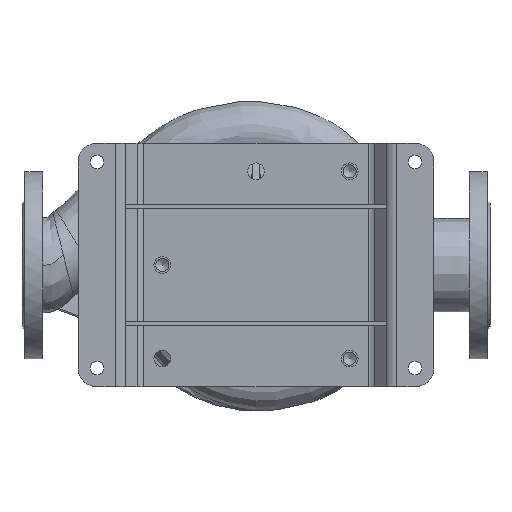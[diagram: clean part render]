
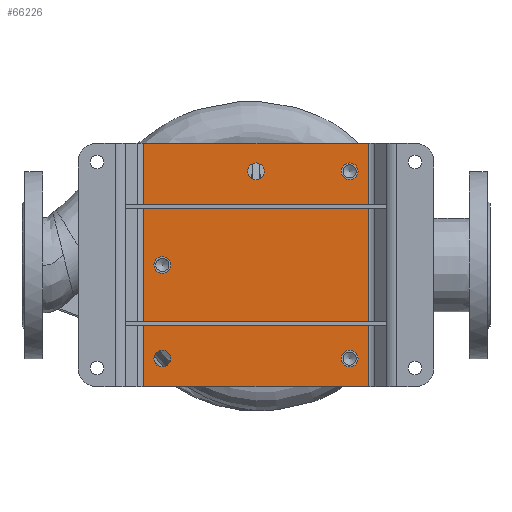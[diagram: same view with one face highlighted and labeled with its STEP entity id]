
A CAD part, top view. The second image highlights one B-rep face of the part: STEP entity #66226.
In plain terms, the highlighted planar face has unit normal (0, 0, 1) as drawn and (0, -1, 0) by its records, which use the part's own axes.
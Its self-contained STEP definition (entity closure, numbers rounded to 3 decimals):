
#1422 = DIRECTION ( 'NONE',  ( 0., 0., -1. ) ) ;
#1971 = DIRECTION ( 'NONE',  ( 0., -1., 0. ) ) ;
#2475 = DIRECTION ( 'NONE',  ( 0., -1., 0. ) ) ;
#2596 = LINE ( 'NONE', #3300, #49160 ) ;
#3300 = CARTESIAN_POINT ( 'NONE',  ( -120., -5., 130. ) ) ;
#5423 = EDGE_LOOP ( 'NONE', ( #26721 ) ) ;
#5782 = CARTESIAN_POINT ( 'NONE',  ( -100., -5., -100. ) ) ;
#6032 = CARTESIAN_POINT ( 'NONE',  ( 120., -5., 130. ) ) ;
#8694 = EDGE_CURVE ( 'NONE', #36744, #66663, #2596, .T. ) ;
#9854 = VERTEX_POINT ( 'NONE', #10220 ) ;
#10075 = ORIENTED_EDGE ( 'NONE', *, *, #53579, .F. ) ;
#10220 = CARTESIAN_POINT ( 'NONE',  ( -100., -5., -109. ) ) ;
#11085 = DIRECTION ( 'NONE',  ( 0., 0., 1. ) ) ;
#11900 = CARTESIAN_POINT ( 'NONE',  ( 0., -5., 0. ) ) ;
#13278 = CARTESIAN_POINT ( 'NONE',  ( 0., -5., -100. ) ) ;
#14474 = DIRECTION ( 'NONE',  ( 1., 0., 0. ) ) ;
#14496 = CARTESIAN_POINT ( 'NONE',  ( -120., -5., -130. ) ) ;
#17323 = EDGE_LOOP ( 'NONE', ( #10075 ) ) ;
#18124 = AXIS2_PLACEMENT_3D ( 'NONE', #5782, #20975, #44362 ) ;
#18822 = EDGE_CURVE ( 'NONE', #58272, #58272, #30305, .T. ) ;
#19312 = EDGE_CURVE ( 'NONE', #53223, #53223, #51069, .T. ) ;
#19921 = DIRECTION ( 'NONE',  ( -1., 0., 0. ) ) ;
#20975 = DIRECTION ( 'NONE',  ( 0., -1., 0. ) ) ;
#22369 = PLANE ( 'NONE',  #70969 ) ;
#24455 = DIRECTION ( 'NONE',  ( 0., 0., -1. ) ) ;
#25964 = VERTEX_POINT ( 'NONE', #35554 ) ;
#26721 = ORIENTED_EDGE ( 'NONE', *, *, #71037, .F. ) ;
#27412 = FACE_OUTER_BOUND ( 'NONE', #61431, .T. ) ;
#27770 = LINE ( 'NONE', #49802, #61722 ) ;
#28025 = LINE ( 'NONE', #60843, #50237 ) ;
#28999 = CARTESIAN_POINT ( 'NONE',  ( 100., -5., 91. ) ) ;
#29199 = DIRECTION ( 'NONE',  ( 0., -1., 0. ) ) ;
#30305 = CIRCLE ( 'NONE', #34949, 9. ) ;
#30955 = CIRCLE ( 'NONE', #44804, 9. ) ;
#31120 = AXIS2_PLACEMENT_3D ( 'NONE', #56624, #29199, #51222 ) ;
#31574 = CARTESIAN_POINT ( 'NONE',  ( 0., -5., -109. ) ) ;
#31967 = CIRCLE ( 'NONE', #18124, 9. ) ;
#32140 = ORIENTED_EDGE ( 'NONE', *, *, #39452, .F. ) ;
#34949 = AXIS2_PLACEMENT_3D ( 'NONE', #68195, #52008, #57033 ) ;
#35554 = CARTESIAN_POINT ( 'NONE',  ( 120., -5., -130. ) ) ;
#36744 = VERTEX_POINT ( 'NONE', #37235 ) ;
#37235 = CARTESIAN_POINT ( 'NONE',  ( -120., -5., 130. ) ) ;
#38391 = EDGE_CURVE ( 'NONE', #68282, #68282, #56443, .T. ) ;
#39452 = EDGE_CURVE ( 'NONE', #66663, #25964, #27770, .T. ) ;
#39528 = AXIS2_PLACEMENT_3D ( 'NONE', #13278, #2475, #24455 ) ;
#39743 = VERTEX_POINT ( 'NONE', #61707 ) ;
#44362 = DIRECTION ( 'NONE',  ( 0., 0., -1. ) ) ;
#44804 = AXIS2_PLACEMENT_3D ( 'NONE', #51384, #1971, #45973 ) ;
#45053 = VECTOR ( 'NONE', #19921, 1000. ) ;
#45973 = DIRECTION ( 'NONE',  ( 0., 0., -1. ) ) ;
#48561 = EDGE_LOOP ( 'NONE', ( #62672 ) ) ;
#49160 = VECTOR ( 'NONE', #14474, 1000. ) ;
#49281 = ORIENTED_EDGE ( 'NONE', *, *, #50800, .F. ) ;
#49330 = ORIENTED_EDGE ( 'NONE', *, *, #38391, .F. ) ;
#49802 = CARTESIAN_POINT ( 'NONE',  ( 120., -5., 130. ) ) ;
#50237 = VECTOR ( 'NONE', #11085, 1000. ) ;
#50497 = FACE_BOUND ( 'NONE', #17323, .T. ) ;
#50800 = EDGE_CURVE ( 'NONE', #25964, #53236, #69284, .T. ) ;
#50853 = FACE_BOUND ( 'NONE', #48561, .T. ) ;
#50861 = EDGE_LOOP ( 'NONE', ( #64920 ) ) ;
#51069 = CIRCLE ( 'NONE', #39528, 9. ) ;
#51222 = DIRECTION ( 'NONE',  ( 0., 0., -1. ) ) ;
#51384 = CARTESIAN_POINT ( 'NONE',  ( 100., -5., 0. ) ) ;
#52008 = DIRECTION ( 'NONE',  ( 0., -1., 0. ) ) ;
#53223 = VERTEX_POINT ( 'NONE', #31574 ) ;
#53236 = VERTEX_POINT ( 'NONE', #14496 ) ;
#53579 = EDGE_CURVE ( 'NONE', #9854, #9854, #31967, .T. ) ;
#53691 = EDGE_LOOP ( 'NONE', ( #49330 ) ) ;
#54818 = FACE_BOUND ( 'NONE', #53691, .T. ) ;
#55187 = FACE_BOUND ( 'NONE', #50861, .T. ) ;
#56443 = CIRCLE ( 'NONE', #31120, 9. ) ;
#56624 = CARTESIAN_POINT ( 'NONE',  ( 100., -5., 100. ) ) ;
#57033 = DIRECTION ( 'NONE',  ( 0., 0., -1. ) ) ;
#57046 = CARTESIAN_POINT ( 'NONE',  ( -120., -5., -130. ) ) ;
#58272 = VERTEX_POINT ( 'NONE', #64727 ) ;
#58298 = ORIENTED_EDGE ( 'NONE', *, *, #63553, .F. ) ;
#60230 = DIRECTION ( 'NONE',  ( 0., -1., 0. ) ) ;
#60843 = CARTESIAN_POINT ( 'NONE',  ( -120., -5., 130. ) ) ;
#60941 = DIRECTION ( 'NONE',  ( 0., 0., -1. ) ) ;
#61431 = EDGE_LOOP ( 'NONE', ( #32140, #64096, #58298, #49281 ) ) ;
#61707 = CARTESIAN_POINT ( 'NONE',  ( 100., -5., -9. ) ) ;
#61722 = VECTOR ( 'NONE', #60941, 1000. ) ;
#62672 = ORIENTED_EDGE ( 'NONE', *, *, #18822, .F. ) ;
#63553 = EDGE_CURVE ( 'NONE', #53236, #36744, #28025, .T. ) ;
#64096 = ORIENTED_EDGE ( 'NONE', *, *, #8694, .F. ) ;
#64727 = CARTESIAN_POINT ( 'NONE',  ( -100., -5., 91. ) ) ;
#64920 = ORIENTED_EDGE ( 'NONE', *, *, #19312, .F. ) ;
#66226 = ADVANCED_FACE ( 'NONE', ( #67389, #50497, #55187, #54818, #50853, #27412 ), #22369, .T. ) ;
#66663 = VERTEX_POINT ( 'NONE', #6032 ) ;
#67389 = FACE_BOUND ( 'NONE', #5423, .T. ) ;
#68195 = CARTESIAN_POINT ( 'NONE',  ( -100., -5., 100. ) ) ;
#68282 = VERTEX_POINT ( 'NONE', #28999 ) ;
#69284 = LINE ( 'NONE', #57046, #45053 ) ;
#70969 = AXIS2_PLACEMENT_3D ( 'NONE', #11900, #60230, #1422 ) ;
#71037 = EDGE_CURVE ( 'NONE', #39743, #39743, #30955, .T. ) ;
